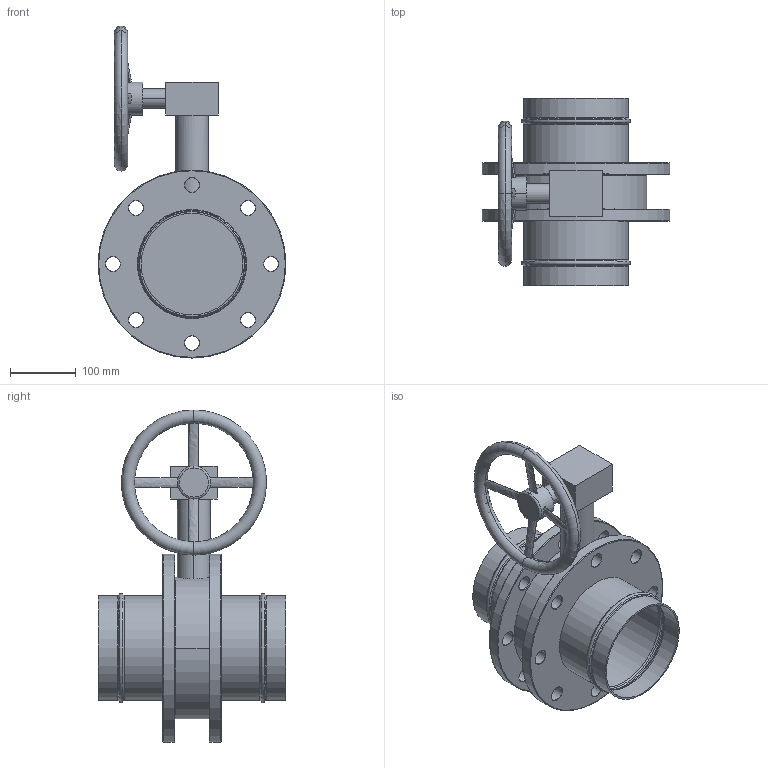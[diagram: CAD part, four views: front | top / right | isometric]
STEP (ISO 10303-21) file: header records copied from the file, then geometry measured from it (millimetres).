
FILE_DESCRIPTION(/* description */ (''),/* implementation_level */ '2;1');
FILE_NAME(/* name */ '50151100103.stp',/* time_stamp */ '2020-06-22T14:21:51+08:00',/* author */ (''),/* organization */ (''),/* preprocessor_version */ 'ST-DEVELOPER v11',/* originating_system */ 'SIEMENS PLM Software NX 7.5',/* authorisation */ '');
FILE_SCHEMA (('CONFIG_CONTROL_DESIGN'));
Length unit declared in the file: millimetre
Products named in the file (1): Admi4F60b418
Bounding box: 285 x 284.13 x 503.5 mm (x, y, z)
Volume: 4636978.3 mm3; surface area: 647249.7 mm2
Topology: 3 solids, 3 shells, 144 faces, 334 edges, 204 vertices
Faces by surface type: cone 52, cylinder 34, torus 26, plane 24, extrusion 8
Full cylindrical faces by diameter (mm): 22 x16, 154 x4, 159 x4, 285 x2
Entity records: 3924 total; most frequent: CARTESIAN_POINT 899, DIRECTION 640, ORIENTED_EDGE 440, AXIS2_PLACEMENT_3D 301, EDGE_LOOP 294, FACE_BOUND 268, EDGE_CURVE 220, VERTEX_POINT 188
